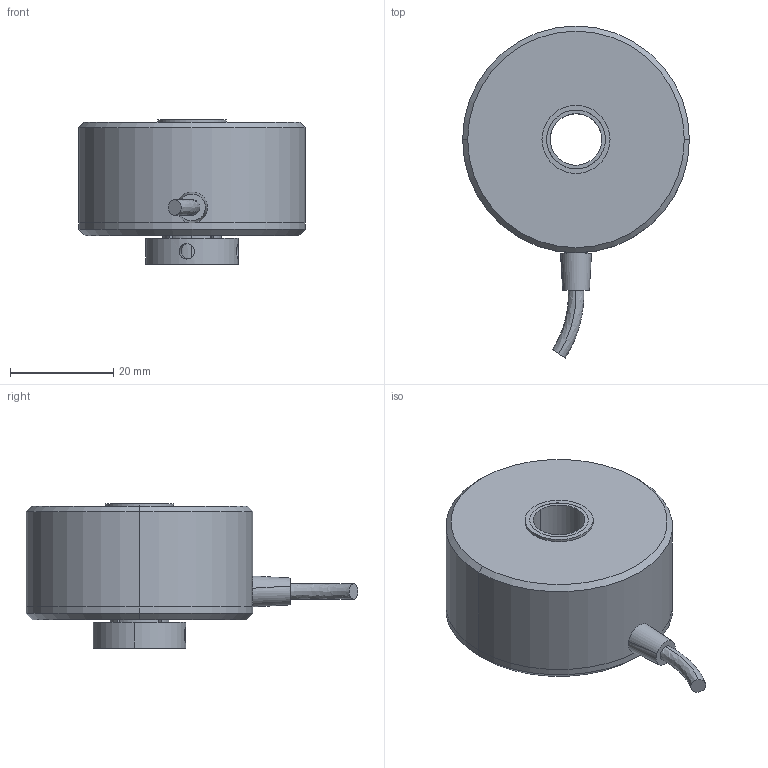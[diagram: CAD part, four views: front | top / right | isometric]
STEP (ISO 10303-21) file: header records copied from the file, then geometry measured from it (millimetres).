
FILE_DESCRIPTION (( 'STEP AP214' ), '1' );
FILE_NAME ('MH_Assem1.STEP', '2024-06-18T01:26:22', ( '' ), ( '' ), 'SwSTEP 2.0', 'SolidWorks 2023', '' );
FILE_SCHEMA (( 'AUTOMOTIVE_DESIGN' ));
Length unit declared in the file: millimetre
Products named in the file (5): MH_Assem1; MH_Part2; MH_Part1; MH_Part4; MH_Part3
Assembly tree (4 placements, depth 2):
  MH_Assem1
    MH_Part1
    MH_Part2
    MH_Part3
    MH_Part4
Bounding box: 44 x 64.36 x 28 mm (x, y, z)
Volume: 32519.8 mm3; surface area: 12549.7 mm2
Topology: 5 solids, 5 shells, 72 faces, 172 edges, 112 vertices
Faces by surface type: cylinder 34, plane 30, bspline 4, cone 4
Entity records: 2571 total; most frequent: CARTESIAN_POINT 655, DIRECTION 398, ORIENTED_EDGE 344, EDGE_CURVE 172, AXIS2_PLACEMENT_3D 163, VERTEX_POINT 112, EDGE_LOOP 92, CIRCLE 88
